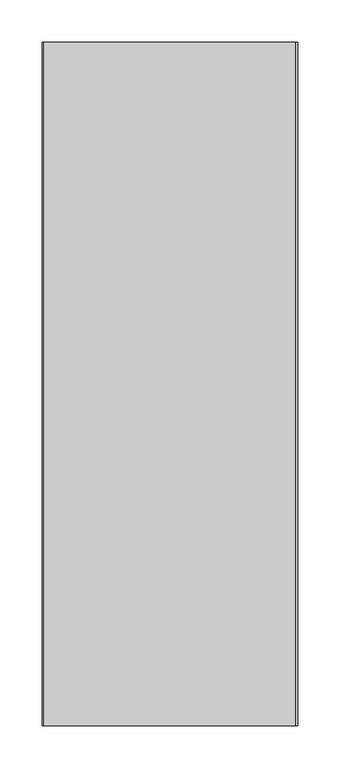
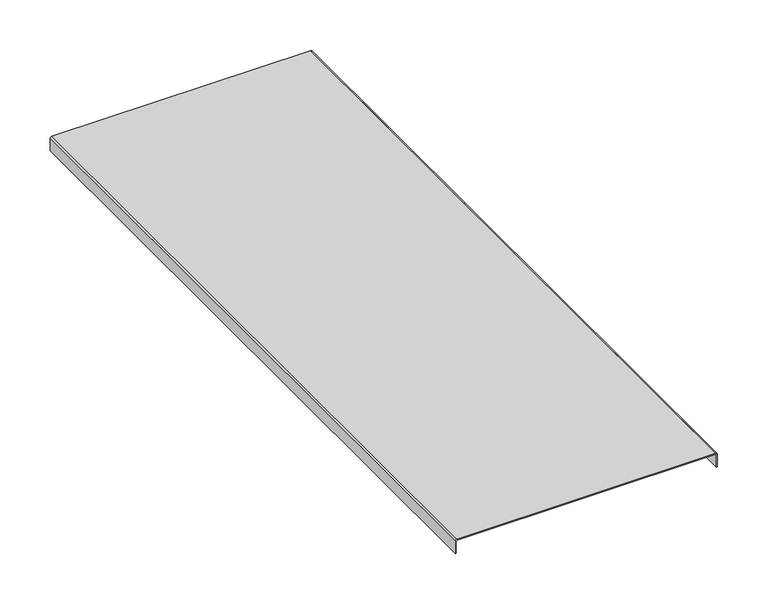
"""IFC4 building model written with IfcOpenShell, lengths in millimetres: proxy geometry, Cable_Tray_Cover_CT_Basorcanal : Basorcanal CT 100X300 (cover)."""

from ifc_helpers import new_model, si_unit, point, frame, frame_2d, origin, place, context, project, spatial, polyline, circle_curve, trimmed, segment, composite_curve, outline, extrude, source, transform, mapped, element, save


def generic_models_3b93f0a4(model_context):
    return source(origin(), model_context, "Body", "SweptSolid", [
        extrude(outline(composite_curve([segment(trimmed(circle_curve(frame_2d((-1.0, -149.0)), 1.0), [point((-1.0, -150.0))], [point((0.0, -149.0))], True, "CARTESIAN"), True, "CONTINUOUS"), segment(polyline([(0.0, -149.0), (0.0, 149.0)]), True, "CONTINUOUS"), segment(trimmed(circle_curve(frame_2d((-1.0, 149.0)), 1.0), [point((0.0, 149.0))], [point((-1.0, 150.0))], True, "CARTESIAN"), True, "CONTINUOUS"), segment(polyline([(-1.0, 150.0), (-16.0, 150.0), (-16.0, 151.0), (-1.0, 151.0)]), True, "CONTINUOUS"), segment(trimmed(circle_curve(frame_2d((-1.0, 149.0)), 2.0), [point((-1.0, 151.0))], [point((1.0, 149.0))], False, "CARTESIAN"), True, "CONTINUOUS"), segment(polyline([(1.0, 149.0), (1.0, -149.0)]), True, "CONTINUOUS"), segment(trimmed(circle_curve(frame_2d((-1.0, -149.0)), 2.0), [point((1.0, -149.0))], [point((-1.0, -151.0))], False, "CARTESIAN"), True, "CONTINUOUS"), segment(polyline([(-1.0, -151.0), (-16.0, -151.0), (-16.0, -150.0), (-1.0, -150.0)]), True, "CONTINUOUS")], self_intersect=False)), frame((0.0, 0.0, 0.0), z_axis=(0.0, 1.0, 0.0), x_axis=(0.0, 0.0, 1.0)), (0.0, 0.0, 1.0), 808.5),
    ])


if __name__ == "__main__":
    model = new_model("IFC4")
    model_context = context("Model", 3, world=origin())
    ifc_project = project(units=[si_unit("LENGTHUNIT", "METRE", prefix="MILLI")], contexts=[model_context])
    site = spatial("IfcSite", under=ifc_project)
    building = spatial("IfcBuilding", under=site)
    placement = place(None, origin())
    generic_models_shape = generic_models_3b93f0a4(model_context)
    element("IfcBuildingElementProxy", 1, Name="Cable_Tray_Cover_CT_Basorcanal : Basorcanal CT 100X300 (cover)", ObjectType="Cable_Tray_Cover_CT_Basorcanal : Basorcanal CT 100X300 (cover)", at=placement, inside=building, context=model_context, shape_type="MappedRepresentation", body=[
        mapped(generic_models_shape, transform((0.0, 0.0, 0.0), x_axis=(1.0, 0.0, 0.0), y_axis=(0.0, 1.0, 0.0), z_axis=(0.0, 0.0, 1.0))),
    ])
    save(model, "model.ifc")
